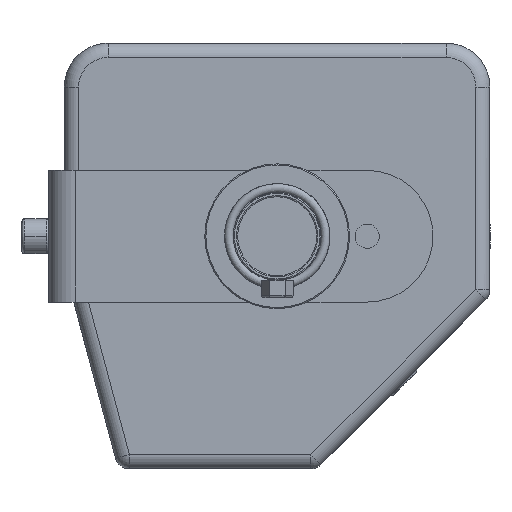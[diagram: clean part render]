
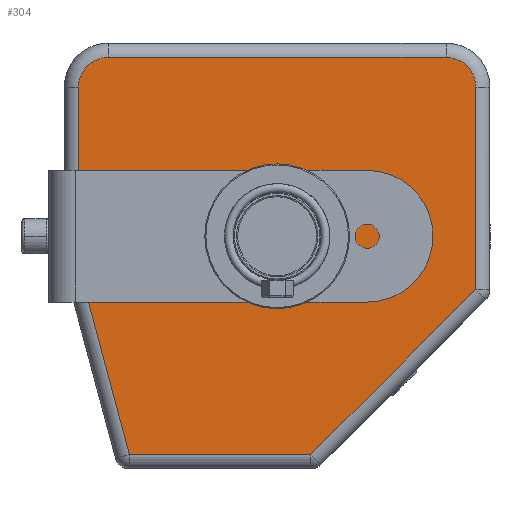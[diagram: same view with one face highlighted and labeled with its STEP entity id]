
A CAD part, front view. The second image highlights one B-rep face of the part: STEP entity #304.
In plain terms, the highlighted planar face has unit normal (0, -1, 0) as drawn and (0, 0, -1) by its records, which use the part's own axes.
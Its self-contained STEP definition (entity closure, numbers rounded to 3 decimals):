
#260 = ORIENTED_EDGE ( 'NONE', *, *, #14288, .F. ) ;
#268 = ORIENTED_EDGE ( 'NONE', *, *, #414, .F. ) ;
#274 = ORIENTED_EDGE ( 'NONE', *, *, #15929, .F. ) ;
#280 = EDGE_LOOP ( 'NONE', ( #285, #284, #260, #268, #415, #411, #412, #413 ) ) ;
#284 = ORIENTED_EDGE ( 'NONE', *, *, #13672, .F. ) ;
#285 = ORIENTED_EDGE ( 'NONE', *, *, #573, .F. ) ;
#291 = ORIENTED_EDGE ( 'NONE', *, *, #1322, .F. ) ;
#304 = ADVANCED_FACE ( 'NONE', ( #2398, #2397 ), #2396, .F. ) ;
#311 = EDGE_LOOP ( 'NONE', ( #291, #274 ) ) ;
#411 = ORIENTED_EDGE ( 'NONE', *, *, #13992, .F. ) ;
#412 = ORIENTED_EDGE ( 'NONE', *, *, #1404, .F. ) ;
#413 = ORIENTED_EDGE ( 'NONE', *, *, #420, .F. ) ;
#414 = EDGE_CURVE ( 'NONE', #14139, #14290, #2593, .T. ) ;
#415 = ORIENTED_EDGE ( 'NONE', *, *, #14122, .F. ) ;
#420 = EDGE_CURVE ( 'NONE', #579, #1361, #2581, .T. ) ;
#573 = EDGE_CURVE ( 'NONE', #13665, #579, #2894, .T. ) ;
#579 = VERTEX_POINT ( 'NONE', #2885 ) ;
#811 = VERTEX_POINT ( 'NONE', #3295 ) ;
#1322 = EDGE_CURVE ( 'NONE', #15924, #15927, #4122, .T. ) ;
#1361 = VERTEX_POINT ( 'NONE', #4241 ) ;
#1404 = EDGE_CURVE ( 'NONE', #1361, #811, #4291, .T. ) ;
#2392 = DIRECTION ( 'NONE',  ( 0., -1., 0. ) ) ;
#2393 = DIRECTION ( 'NONE',  ( 0., 0., 1. ) ) ;
#2394 = CARTESIAN_POINT ( 'NONE',  ( 110.865, 116.505, 40.5 ) ) ;
#2395 = AXIS2_PLACEMENT_3D ( 'NONE', #2394, #2393, #2392 ) ;
#2396 = PLANE ( 'NONE',  #2395 ) ;
#2397 = FACE_OUTER_BOUND ( 'NONE', #280, .T. ) ;
#2398 = FACE_BOUND ( 'NONE', #311, .T. ) ;
#2577 = DIRECTION ( 'NONE',  ( 0., 1., 0. ) ) ;
#2578 = VECTOR ( 'NONE', #2577, 1000. ) ;
#2580 = CARTESIAN_POINT ( 'NONE',  ( 206.8, 141.169, 40.5 ) ) ;
#2581 = LINE ( 'NONE', #2580, #2578 ) ;
#2590 = DIRECTION ( 'NONE',  ( 0., -1., 0. ) ) ;
#2591 = VECTOR ( 'NONE', #2590, 1000. ) ;
#2592 = CARTESIAN_POINT ( 'NONE',  ( 25.8, 93.669, 40.5 ) ) ;
#2593 = LINE ( 'NONE', #2592, #2591 ) ;
#2885 = CARTESIAN_POINT ( 'NONE',  ( 206.8, 70.834, 40.5 ) ) ;
#2890 = CARTESIAN_POINT ( 'NONE',  ( 206.8, 70.834, 40.5 ) ) ;
#2891 = CARTESIAN_POINT ( 'NONE',  ( 206.8, 62.926, 40.5 ) ) ;
#2892 = CARTESIAN_POINT ( 'NONE',  ( 201.208, 57.334, 40.5 ) ) ;
#2893 = CARTESIAN_POINT ( 'NONE',  ( 193.3, 57.334, 40.5 ) ) ;
#2894 =( BOUNDED_CURVE ( )  B_SPLINE_CURVE ( 3, ( #2893, #2892, #2891, #2890 ),
 .UNSPECIFIED., .F., .T. ) 
 B_SPLINE_CURVE_WITH_KNOTS ( ( 4, 4 ),
 ( 0., 1. ),
 .UNSPECIFIED. ) 
 CURVE ( )  GEOMETRIC_REPRESENTATION_ITEM ( )  RATIONAL_B_SPLINE_CURVE ( ( 1., 0.805, 0.805, 1. ) ) 
 REPRESENTATION_ITEM ( '' )  );
#3295 = CARTESIAN_POINT ( 'NONE',  ( 131.608, 238.334, 40.5 ) ) ;
#4120 = CARTESIAN_POINT ( 'NONE',  ( 116.3, 147.834, 40.5 ) ) ;
#4121 = AXIS2_PLACEMENT_3D ( 'NONE', #4120, #4191, #4189 ) ;
#4122 = CIRCLE ( 'NONE', #4121, 10. ) ;
#4189 = DIRECTION ( 'NONE',  ( 0., 1., 0. ) ) ;
#4191 = DIRECTION ( 'NONE',  ( 0., 0., -1. ) ) ;
#4241 = CARTESIAN_POINT ( 'NONE',  ( 206.8, 163.141, 40.5 ) ) ;
#4288 = DIRECTION ( 'NONE',  ( -0.707, 0.707, 0. ) ) ;
#4289 = VECTOR ( 'NONE', #4288, 1000. ) ;
#4290 = CARTESIAN_POINT ( 'NONE',  ( 206.8, 163.141, 40.5 ) ) ;
#4291 = LINE ( 'NONE', #4290, #4289 ) ;
#6967 = DIRECTION ( 'NONE',  ( 1., 0., 0. ) ) ;
#6968 = VECTOR ( 'NONE', #6967, 1000. ) ;
#6969 = CARTESIAN_POINT ( 'NONE',  ( 110.865, 57.334, 40.5 ) ) ;
#6970 = LINE ( 'NONE', #6969, #6968 ) ;
#6976 = CARTESIAN_POINT ( 'NONE',  ( 193.3, 57.334, 40.5 ) ) ;
#7606 = DIRECTION ( 'NONE',  ( -1., 0., 0. ) ) ;
#7607 = VECTOR ( 'NONE', #7606, 1000. ) ;
#7608 = CARTESIAN_POINT ( 'NONE',  ( 110.865, 238.334, 40.5 ) ) ;
#7609 = LINE ( 'NONE', #7608, #7607 ) ;
#7938 = DIRECTION ( 'NONE',  ( -0.259, -0.966, 0. ) ) ;
#7939 = VECTOR ( 'NONE', #7938, 1000. ) ;
#7940 = CARTESIAN_POINT ( 'NONE',  ( 48.939, 238.334, 40.5 ) ) ;
#7941 = LINE ( 'NONE', #7940, #7939 ) ;
#7958 = CARTESIAN_POINT ( 'NONE',  ( 25.8, 151.978, 40.5 ) ) ;
#8211 = CARTESIAN_POINT ( 'NONE',  ( 39.3, 57.334, 40.5 ) ) ;
#8212 = CARTESIAN_POINT ( 'NONE',  ( 25.8, 70.834, 40.5 ) ) ;
#8218 = CARTESIAN_POINT ( 'NONE',  ( 39.3, 57.334, 40.5 ) ) ;
#8219 = CARTESIAN_POINT ( 'NONE',  ( 31.392, 57.334, 40.5 ) ) ;
#8220 = CARTESIAN_POINT ( 'NONE',  ( 25.8, 62.926, 40.5 ) ) ;
#8221 = CARTESIAN_POINT ( 'NONE',  ( 25.8, 70.834, 40.5 ) ) ;
#8222 =( BOUNDED_CURVE ( )  B_SPLINE_CURVE ( 3, ( #8221, #8220, #8219, #8218 ),
 .UNSPECIFIED., .F., .F. ) 
 B_SPLINE_CURVE_WITH_KNOTS ( ( 4, 4 ),
 ( 0., 1. ),
 .UNSPECIFIED. ) 
 CURVE ( )  GEOMETRIC_REPRESENTATION_ITEM ( )  RATIONAL_B_SPLINE_CURVE ( ( 1., 0.805, 0.805, 1. ) ) 
 REPRESENTATION_ITEM ( '' )  );
#9803 = CARTESIAN_POINT ( 'NONE',  ( 48.939, 238.334, 40.5 ) ) ;
#11308 = DIRECTION ( 'NONE',  ( 0., 1., 0. ) ) ;
#11309 = DIRECTION ( 'NONE',  ( 0., 0., -1. ) ) ;
#11311 = CARTESIAN_POINT ( 'NONE',  ( 116.3, 147.834, 40.5 ) ) ;
#11312 = AXIS2_PLACEMENT_3D ( 'NONE', #11311, #11309, #11308 ) ;
#11313 = CIRCLE ( 'NONE', #11312, 10. ) ;
#11314 = CARTESIAN_POINT ( 'NONE',  ( 116.3, 137.834, 40.5 ) ) ;
#11315 = CARTESIAN_POINT ( 'NONE',  ( 116.3, 157.834, 40.5 ) ) ;
#13665 = VERTEX_POINT ( 'NONE', #6976 ) ;
#13672 = EDGE_CURVE ( 'NONE', #14293, #13665, #6970, .T. ) ;
#13992 = EDGE_CURVE ( 'NONE', #811, #15070, #7609, .T. ) ;
#14122 = EDGE_CURVE ( 'NONE', #15070, #14139, #7941, .T. ) ;
#14139 = VERTEX_POINT ( 'NONE', #7958 ) ;
#14288 = EDGE_CURVE ( 'NONE', #14290, #14293, #8222, .T. ) ;
#14290 = VERTEX_POINT ( 'NONE', #8212 ) ;
#14293 = VERTEX_POINT ( 'NONE', #8211 ) ;
#15070 = VERTEX_POINT ( 'NONE', #9803 ) ;
#15924 = VERTEX_POINT ( 'NONE', #11315 ) ;
#15927 = VERTEX_POINT ( 'NONE', #11314 ) ;
#15929 = EDGE_CURVE ( 'NONE', #15927, #15924, #11313, .T. ) ;
